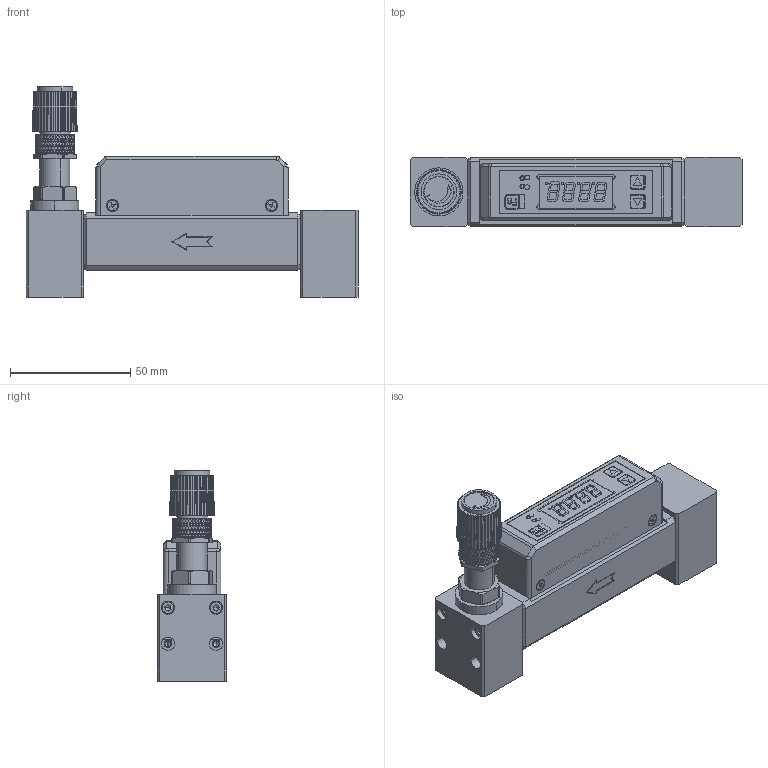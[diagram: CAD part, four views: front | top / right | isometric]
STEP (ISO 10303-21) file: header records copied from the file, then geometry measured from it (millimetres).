
FILE_DESCRIPTION (( 'STEP AP203' ), '1' );
FILE_NAME ('MF4601 3D.STEP', '2021-12-15T03:47:21', ( '' ), ( '' ), 'SwSTEP 2.0', 'SolidWorks 2019', '' );
FILE_SCHEMA (( 'CONFIG_CONTROL_DESIGN' ));
Products named in the file (1): MF4601 3D
Bounding box: 138 x 29 x 87.35 mm (x, y, z)
Volume: 132083.4 mm3; surface area: 65455.2 mm2
Topology: 93 solids, 93 shells, 3411 faces, 8865 edges, 5817 vertices
Faces by surface type: plane 2091, cylinder 873, cone 283, bspline 122, torus 36, sphere 6
Entity records: 112740 total; most frequent: CARTESIAN_POINT 35481, ORIENTED_EDGE 17578, DIRECTION 14304, EDGE_CURVE 8789, VERTEX_POINT 5815, AXIS2_PLACEMENT_3D 4989, LINE 4326, VECTOR 4326
